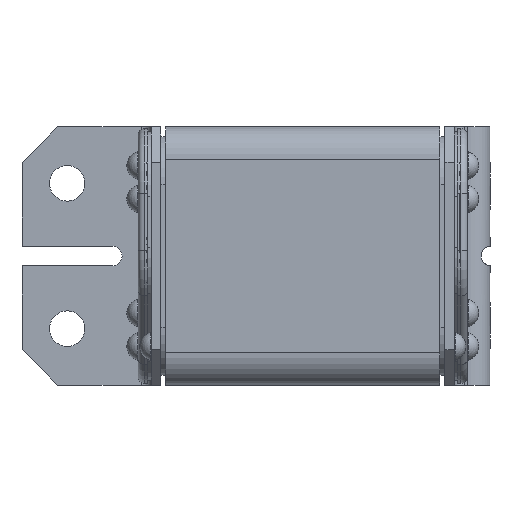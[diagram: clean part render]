
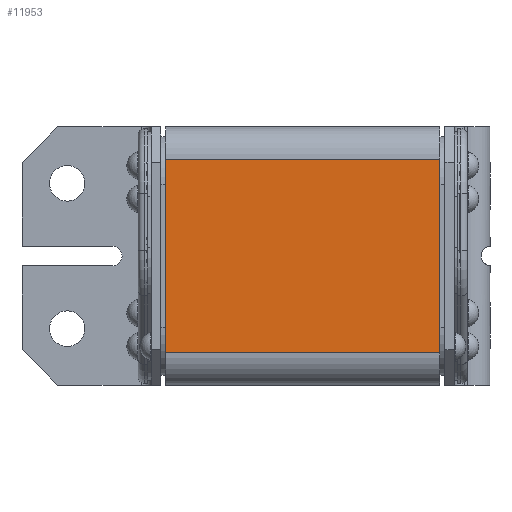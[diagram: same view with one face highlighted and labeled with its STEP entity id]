
A CAD part, left-side view. The second image highlights one B-rep face of the part: STEP entity #11953.
In plain terms, the highlighted planar face has unit normal (-1, 0, 0).
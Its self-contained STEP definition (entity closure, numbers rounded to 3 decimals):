
#6 = LINE ( 'NONE', #7321, #19462 ) ;
#721 = VERTEX_POINT ( 'NONE', #8965 ) ;
#1005 = CARTESIAN_POINT ( 'NONE',  ( -40., -42.5, -30. ) ) ;
#1395 = EDGE_CURVE ( 'NONE', #2614, #8764, #15651, .T. ) ;
#1911 = EDGE_CURVE ( 'NONE', #11631, #721, #17288, .T. ) ;
#2614 = VERTEX_POINT ( 'NONE', #15432 ) ;
#3911 = CARTESIAN_POINT ( 'NONE',  ( -40., 42.5, 30. ) ) ;
#4131 = CARTESIAN_POINT ( 'NONE',  ( -40., 42.5, -30. ) ) ;
#7280 = VECTOR ( 'NONE', #10436, 1000. ) ;
#7321 = CARTESIAN_POINT ( 'NONE',  ( -40., 42.5, -30. ) ) ;
#8113 = DIRECTION ( 'NONE',  ( 0., 0., -1. ) ) ;
#8764 = VERTEX_POINT ( 'NONE', #19910 ) ;
#8769 = DIRECTION ( 'NONE',  ( 0., -1., 0. ) ) ;
#8965 = CARTESIAN_POINT ( 'NONE',  ( -40., -42.5, 30. ) ) ;
#9175 = ORIENTED_EDGE ( 'NONE', *, *, #17532, .F. ) ;
#9688 = PLANE ( 'NONE',  #19482 ) ;
#9996 = CARTESIAN_POINT ( 'NONE',  ( -40., 42.5, 30. ) ) ;
#10436 = DIRECTION ( 'NONE',  ( 0., -1., 0. ) ) ;
#10653 = DIRECTION ( 'NONE',  ( 0., 0., 1. ) ) ;
#11208 = CARTESIAN_POINT ( 'NONE',  ( -40., 42.5, -30. ) ) ;
#11631 = VERTEX_POINT ( 'NONE', #9996 ) ;
#11953 = ADVANCED_FACE ( 'NONE', ( #17913 ), #9688, .F. ) ;
#12454 = ORIENTED_EDGE ( 'NONE', *, *, #1395, .T. ) ;
#14353 = DIRECTION ( 'NONE',  ( 1., 0., 0. ) ) ;
#15432 = CARTESIAN_POINT ( 'NONE',  ( -40., 42.5, -30. ) ) ;
#15651 = LINE ( 'NONE', #4131, #7280 ) ;
#16129 = ORIENTED_EDGE ( 'NONE', *, *, #1911, .F. ) ;
#16469 = DIRECTION ( 'NONE',  ( 0., 0., 1. ) ) ;
#16825 = LINE ( 'NONE', #1005, #19329 ) ;
#16902 = ORIENTED_EDGE ( 'NONE', *, *, #18676, .T. ) ;
#17288 = LINE ( 'NONE', #3911, #18809 ) ;
#17532 = EDGE_CURVE ( 'NONE', #2614, #11631, #6, .T. ) ;
#17913 = FACE_OUTER_BOUND ( 'NONE', #19031, .T. ) ;
#18676 = EDGE_CURVE ( 'NONE', #8764, #721, #16825, .T. ) ;
#18809 = VECTOR ( 'NONE', #8769, 1000. ) ;
#19031 = EDGE_LOOP ( 'NONE', ( #16902, #16129, #9175, #12454 ) ) ;
#19329 = VECTOR ( 'NONE', #16469, 1000. ) ;
#19462 = VECTOR ( 'NONE', #10653, 1000. ) ;
#19482 = AXIS2_PLACEMENT_3D ( 'NONE', #11208, #14353, #8113 ) ;
#19910 = CARTESIAN_POINT ( 'NONE',  ( -40., -42.5, -30. ) ) ;
